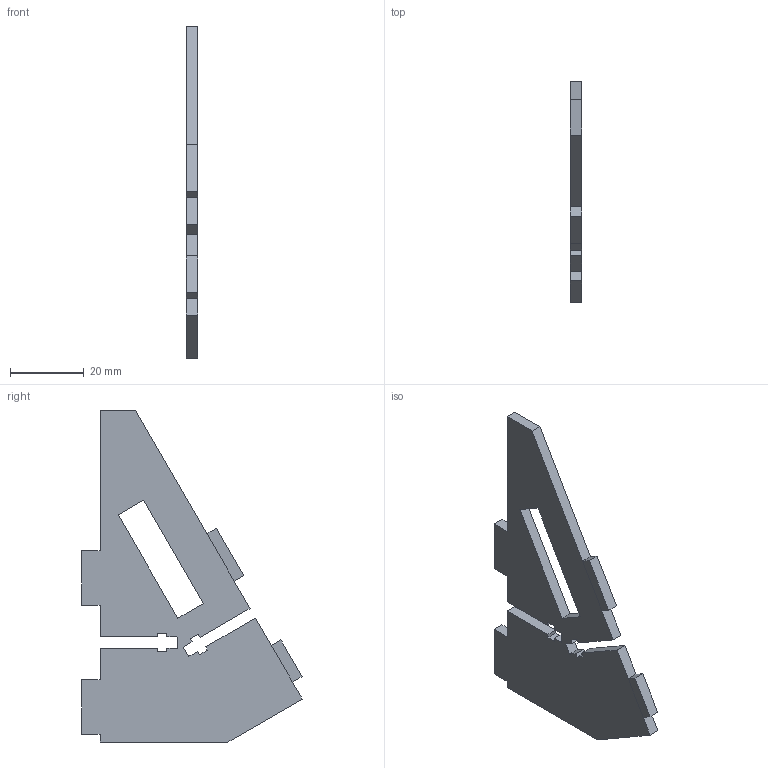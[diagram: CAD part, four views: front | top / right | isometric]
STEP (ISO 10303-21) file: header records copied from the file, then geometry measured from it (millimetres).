
FILE_DESCRIPTION(/* description */ (''),/* implementation_level */ '2;1');
FILE_NAME(/* name */ 'TAPALC~1',/* time_stamp */ '2019-04-01T20:05:46-03:00',/* author */ (''),/* organization */ (''),/* preprocessor_version */ 'ST-DEVELOPER v16.5',/* originating_system */ '',/* authorisation */ '');
FILE_SCHEMA (('AUTOMOTIVE_DESIGN'));
Length unit declared in the file: millimetre
Products named in the file (1): Document
Bounding box: 3 x 60.05 x 90.33 mm (x, y, z)
Volume: 8696.3 mm3; surface area: 7159.7 mm2
Topology: 1 solids, 1 shells, 55 faces, 151 edges, 98 vertices
Faces by surface type: plane 51, bspline 4
Entity records: 1578 total; most frequent: CARTESIAN_POINT 534, ORIENTED_EDGE 302, EDGE_CURVE 151, B_SPLINE_CURVE_WITH_KNOTS 151, VERTEX_POINT 98, EDGE_LOOP 57, ADVANCED_FACE 55, FACE_OUTER_BOUND 55
